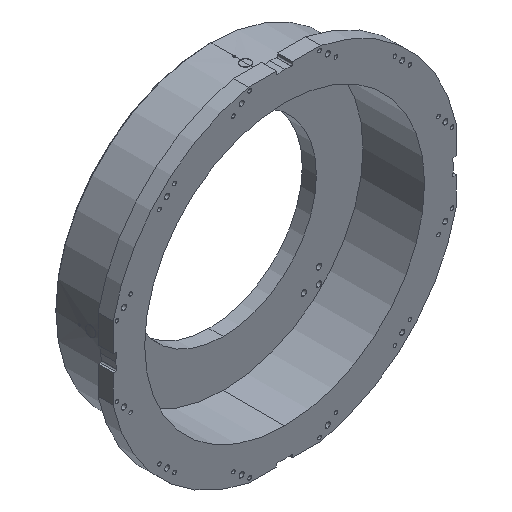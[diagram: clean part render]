
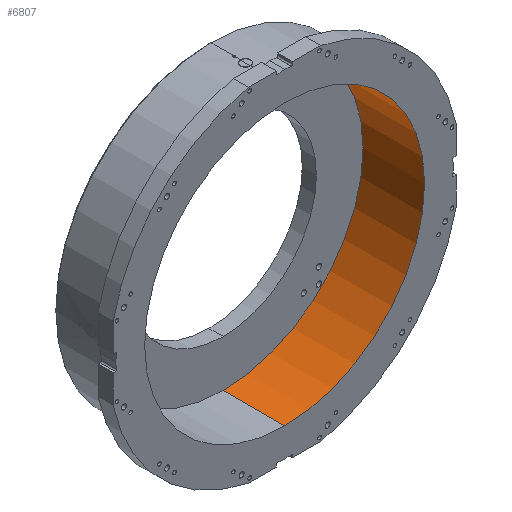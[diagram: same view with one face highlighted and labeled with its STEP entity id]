
A CAD part, isometric view. The second image highlights one B-rep face of the part: STEP entity #6807.
In plain terms, the highlighted cylindrical face has radius 555 mm (diameter 1110 mm), a partial arc.
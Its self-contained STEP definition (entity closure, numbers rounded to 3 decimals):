
#87 = EDGE_CURVE ( 'NONE', #2813, #2508, #4141, .T. ) ;
#705 = VECTOR ( 'NONE', #1004, 1000. ) ;
#891 = EDGE_CURVE ( 'NONE', #9231, #3751, #3399, .T. ) ;
#976 = DIRECTION ( 'NONE',  ( 0., 0., 1. ) ) ;
#1004 = DIRECTION ( 'NONE',  ( 0., 1., 0. ) ) ;
#1070 = CIRCLE ( 'NONE', #3693, 555. ) ;
#1213 = CARTESIAN_POINT ( 'NONE',  ( 0., 0., 555. ) ) ;
#1369 = VECTOR ( 'NONE', #6652, 1000. ) ;
#2047 = DIRECTION ( 'NONE',  ( 0., 1., 0. ) ) ;
#2508 = VERTEX_POINT ( 'NONE', #9122 ) ;
#2574 = CARTESIAN_POINT ( 'NONE',  ( 0., 0., 0. ) ) ;
#2616 = EDGE_CURVE ( 'NONE', #9231, #2813, #1070, .T. ) ;
#2813 = VERTEX_POINT ( 'NONE', #6299 ) ;
#2848 = EDGE_LOOP ( 'NONE', ( #7792, #8936, #9533, #8746 ) ) ;
#3296 = CARTESIAN_POINT ( 'NONE',  ( 0., 0., -555. ) ) ;
#3348 = DIRECTION ( 'NONE',  ( 0., 1., 0. ) ) ;
#3399 = LINE ( 'NONE', #1213, #1369 ) ;
#3693 = AXIS2_PLACEMENT_3D ( 'NONE', #2574, #7982, #976 ) ;
#3751 = VERTEX_POINT ( 'NONE', #7371 ) ;
#3887 = AXIS2_PLACEMENT_3D ( 'NONE', #6713, #3348, #7392 ) ;
#4141 = LINE ( 'NONE', #3296, #705 ) ;
#4167 = AXIS2_PLACEMENT_3D ( 'NONE', #9798, #2047, #4300 ) ;
#4300 = DIRECTION ( 'NONE',  ( 0., 0., 1. ) ) ;
#4563 = EDGE_CURVE ( 'NONE', #3751, #2508, #8352, .T. ) ;
#4806 = CARTESIAN_POINT ( 'NONE',  ( 0., 0., 555. ) ) ;
#6299 = CARTESIAN_POINT ( 'NONE',  ( 0., 0., -555. ) ) ;
#6652 = DIRECTION ( 'NONE',  ( 0., 1., 0. ) ) ;
#6713 = CARTESIAN_POINT ( 'NONE',  ( 0., 244., 0. ) ) ;
#6807 = ADVANCED_FACE ( 'NONE', ( #7456 ), #8998, .F. ) ;
#7371 = CARTESIAN_POINT ( 'NONE',  ( 0., 244., 555. ) ) ;
#7392 = DIRECTION ( 'NONE',  ( 0., 0., 1. ) ) ;
#7456 = FACE_OUTER_BOUND ( 'NONE', #2848, .T. ) ;
#7792 = ORIENTED_EDGE ( 'NONE', *, *, #87, .F. ) ;
#7982 = DIRECTION ( 'NONE',  ( 0., 1., 0. ) ) ;
#8352 = CIRCLE ( 'NONE', #3887, 555. ) ;
#8746 = ORIENTED_EDGE ( 'NONE', *, *, #4563, .T. ) ;
#8936 = ORIENTED_EDGE ( 'NONE', *, *, #2616, .F. ) ;
#8998 = CYLINDRICAL_SURFACE ( 'NONE', #4167, 555. ) ;
#9122 = CARTESIAN_POINT ( 'NONE',  ( 0., 244., -555. ) ) ;
#9231 = VERTEX_POINT ( 'NONE', #4806 ) ;
#9533 = ORIENTED_EDGE ( 'NONE', *, *, #891, .T. ) ;
#9798 = CARTESIAN_POINT ( 'NONE',  ( 0., 0., 0. ) ) ;
